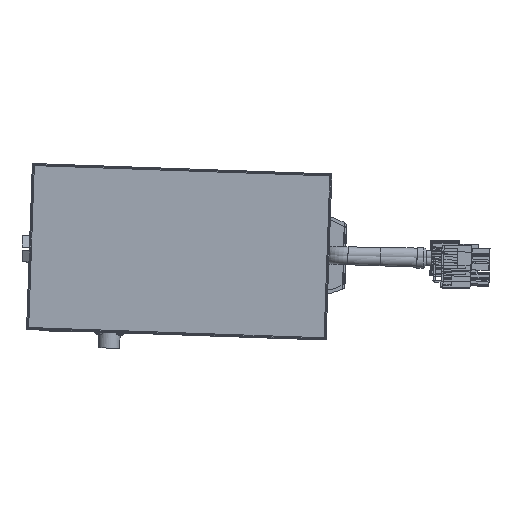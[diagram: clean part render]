
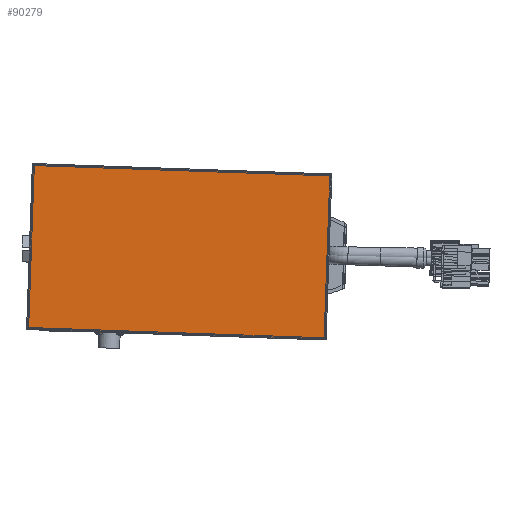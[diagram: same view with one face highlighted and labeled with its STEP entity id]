
A CAD part, top view. The second image highlights one B-rep face of the part: STEP entity #90279.
In plain terms, the highlighted planar face has unit normal (0, 0, 1).
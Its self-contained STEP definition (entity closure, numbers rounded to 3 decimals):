
#89812=CARTESIAN_POINT('',(-39.062,41.889,296.5));
#89813=VERTEX_POINT('',#89812);
#89838=CARTESIAN_POINT('',(107.849,36.759,296.5));
#89839=VERTEX_POINT('',#89838);
#89882=CARTESIAN_POINT('',(-41.889,-39.062,296.5));
#89883=VERTEX_POINT('',#89882);
#89908=CARTESIAN_POINT('',(105.022,-44.192,296.5));
#89909=VERTEX_POINT('',#89908);
#89949=CARTESIAN_POINT('',(105.022,-44.192,296.5));
#89950=DIRECTION('',(-0.999,0.035,0.));
#89951=VECTOR('',#89950,147.);
#89952=LINE('',#89949,#89951);
#89953=EDGE_CURVE('',#89909,#89883,#89952,.T.);
#89996=CARTESIAN_POINT('',(107.849,36.759,296.5));
#89997=DIRECTION('',(-0.035,-0.999,0.));
#89998=VECTOR('',#89997,81.);
#89999=LINE('',#89996,#89998);
#90000=EDGE_CURVE('',#89839,#89909,#89999,.T.);
#90018=CARTESIAN_POINT('',(-41.889,-39.062,296.5));
#90019=DIRECTION('',(0.035,0.999,0.));
#90020=VECTOR('',#90019,81.);
#90021=LINE('',#90018,#90020);
#90022=EDGE_CURVE('',#89883,#89813,#90021,.T.);
#90072=CARTESIAN_POINT('',(-39.062,41.889,296.5));
#90073=DIRECTION('',(0.999,-0.035,0.));
#90074=VECTOR('',#90073,147.);
#90075=LINE('',#90072,#90074);
#90076=EDGE_CURVE('',#89813,#89839,#90075,.T.);
#90268=CARTESIAN_POINT('',(32.98,-1.152,296.5));
#90269=DIRECTION('',(-0.999,0.035,0.));
#90270=DIRECTION('',(0.,0.,1.));
#90271=AXIS2_PLACEMENT_3D('',#90268,#90270,#90269);
#90272=PLANE('',#90271);
#90273=ORIENTED_EDGE('',*,*,#89953,.F.);
#90274=ORIENTED_EDGE('',*,*,#90000,.F.);
#90275=ORIENTED_EDGE('',*,*,#90076,.F.);
#90276=ORIENTED_EDGE('',*,*,#90022,.F.);
#90277=EDGE_LOOP('',(#90273,#90274,#90275,#90276));
#90278=FACE_OUTER_BOUND('',#90277,.T.);
#90279=ADVANCED_FACE('F16',(#90278),#90272,.T.);
